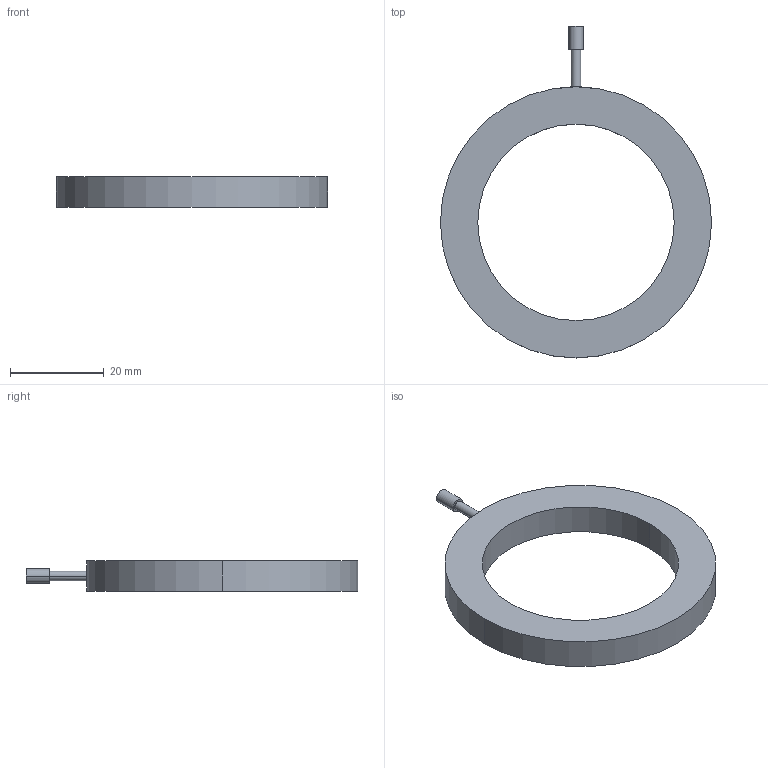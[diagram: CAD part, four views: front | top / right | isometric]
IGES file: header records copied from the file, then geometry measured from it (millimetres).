
Start section:  PTC IGES file: EID03.igs
Global section: file name: EID03.igs; native system: Pro/ENGINEER by Parametric Technology Corporation; preprocessor: 2006460; author: user; organization: Unknown; date: 20130704.151546; units: millimetre
Bounding box: 58 x 71 x 6.5 mm (x, y, z)
Surface area: 4660.6 mm2 (no closed solid volume)
Topology: 0 solids, 0 shells, 12 faces, 48 edges, 48 vertices
Faces by surface type: revolution 8, bspline 4
